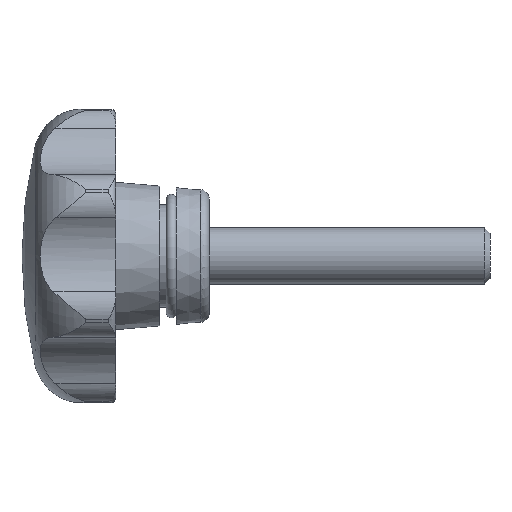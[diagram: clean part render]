
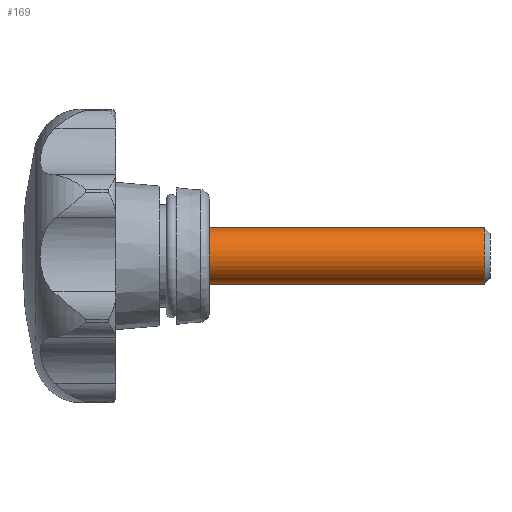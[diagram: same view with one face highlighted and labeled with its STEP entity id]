
A CAD part, left-side view. The second image highlights one B-rep face of the part: STEP entity #169.
In plain terms, the highlighted cylindrical face has radius 3 mm (diameter 6 mm), a full revolution.
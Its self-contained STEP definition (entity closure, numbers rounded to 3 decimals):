
#169 = ADVANCED_FACE( '', ( #388, #389 ), #390, .T. );
#388 = FACE_OUTER_BOUND( '', #615, .T. );
#389 = FACE_OUTER_BOUND( '', #616, .T. );
#390 = CYLINDRICAL_SURFACE( '', #617, 3. );
#615 = EDGE_LOOP( '', ( #1383 ) );
#616 = EDGE_LOOP( '', ( #1384 ) );
#617 = AXIS2_PLACEMENT_3D( '', #1385, #1386, #1387 );
#1383 = ORIENTED_EDGE( '', *, *, #1653, .F. );
#1384 = ORIENTED_EDGE( '', *, *, #1533, .T. );
#1385 = CARTESIAN_POINT( '', ( 0., -30., 0. ) );
#1386 = DIRECTION( '', ( 0., 1., 0. ) );
#1387 = DIRECTION( '', ( 0., 0., -1. ) );
#1533 = EDGE_CURVE( '', #1877, #1877, #1878, .T. );
#1653 = EDGE_CURVE( '', #2060, #2060, #2061, .T. );
#1877 = VERTEX_POINT( '', #3024 );
#1878 = CIRCLE( '', #3025, 3. );
#2060 = VERTEX_POINT( '', #3561 );
#2061 = CIRCLE( '', #3562, 3. );
#3024 = CARTESIAN_POINT( '', ( 0., 0., -3. ) );
#3025 = AXIS2_PLACEMENT_3D( '', #3714, #3715, #3716 );
#3561 = CARTESIAN_POINT( '', ( 0., -29.387, -3. ) );
#3562 = AXIS2_PLACEMENT_3D( '', #3927, #3928, #3929 );
#3714 = CARTESIAN_POINT( '', ( 0., 0., 0. ) );
#3715 = DIRECTION( '', ( 0., -1., 0. ) );
#3716 = DIRECTION( '', ( 0., 0., -1. ) );
#3927 = CARTESIAN_POINT( '', ( 0., -29.387, 0. ) );
#3928 = DIRECTION( '', ( 0., -1., 0. ) );
#3929 = DIRECTION( '', ( 0., 0., -1. ) );
